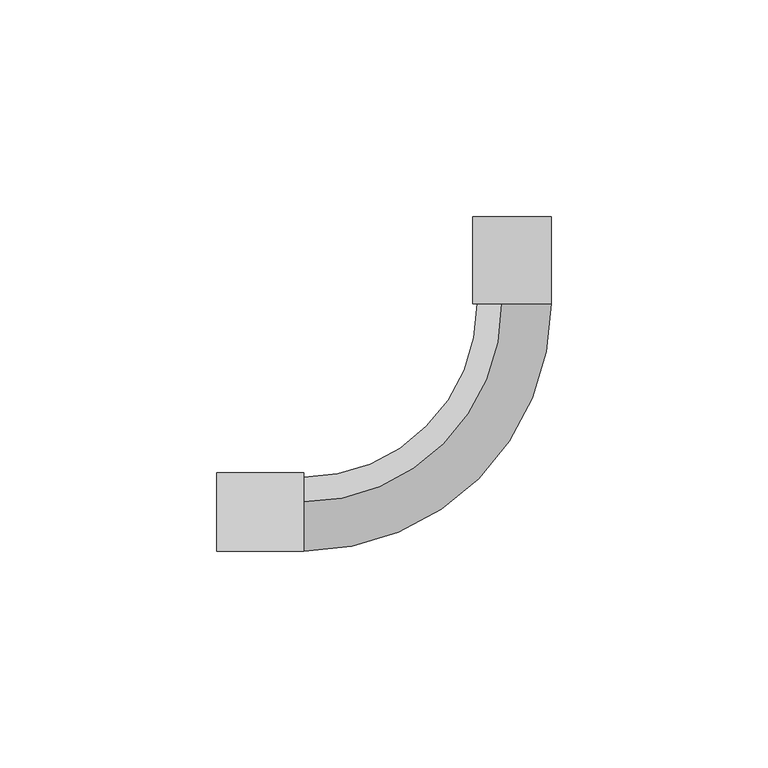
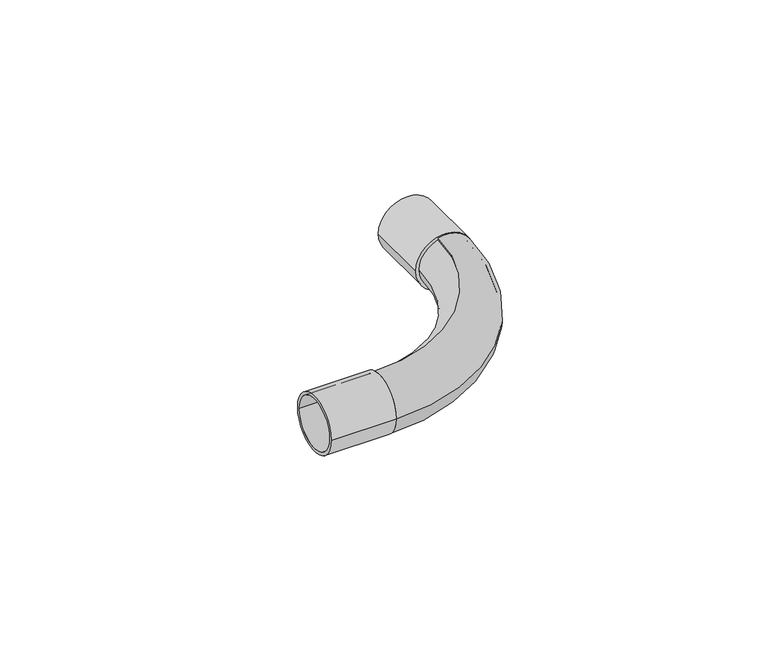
"""IFC4 building model written with IfcOpenShell, lengths in millimetres: pipe fitting geometry, ADSK_Пресс-фитинг ПЭ_Поворот с фиксатором : Поворот трубы."""

from ifc_helpers import new_model, si_unit, point, frame, origin, origin_2d, place, context, project, spatial, polyline, circle_curve, ellipse_curve, trimmed, segment, composite_curve, outline, extrude, source, transform, mapped, element, save
from ifc_brep_helpers import plane_surface, revolved_surface, advanced_brep


def pipe_fitting_ed936812(model_context):
    return source(origin(), model_context, "Body", "SolidModel", [
        extrude(outline(composite_curve([segment(trimmed(circle_curve(origin_2d(), 9.0), [point((9.0, 0.0))], [point((-9.0, 0.0))], False, "CARTESIAN"), True, "CONTINUOUS"), segment(trimmed(circle_curve(origin_2d(), 9.0), [point((-9.0, 0.0))], [point((9.0, 0.0))], False, "CARTESIAN"), True, "CONTINUOUS")], self_intersect=False), holes=[composite_curve([segment(trimmed(circle_curve(origin_2d(), 8.0), [point((8.0, 0.0))], [point((-8.0, 0.0))], True, "CARTESIAN"), True, "CONTINUOUS"), segment(trimmed(circle_curve(origin_2d(), 8.0), [point((-8.0, 0.0))], [point((8.0, 0.0))], True, "CARTESIAN"), True, "CONTINUOUS")], self_intersect=False)]), frame((-68.0, 0.0, 0.0), z_axis=(1.0, 0.0, 0.0), x_axis=(0.0, 1.0, 0.0)), (0.0, 0.0, 1.0), 20.0),
        extrude(outline(composite_curve([segment(trimmed(circle_curve(origin_2d(), 9.0), [point((0.0, 9.0))], [point((0.0, -9.0))], False, "CARTESIAN"), True, "CONTINUOUS"), segment(trimmed(circle_curve(origin_2d(), 9.0), [point((0.0, -9.0))], [point((0.0, 9.0))], False, "CARTESIAN"), True, "CONTINUOUS")], self_intersect=False), holes=[composite_curve([segment(trimmed(circle_curve(origin_2d(), 8.0), [point((0.0, 8.0))], [point((0.0, -8.0))], True, "CARTESIAN"), True, "CONTINUOUS"), segment(trimmed(circle_curve(origin_2d(), 8.0), [point((0.0, -8.0))], [point((0.0, 8.0))], True, "CARTESIAN"), True, "CONTINUOUS")], self_intersect=False)]), frame((0.0, 48.0, 0.0), z_axis=(0.0, 1.0, 0.0), x_axis=(0.0, 0.0, 1.0)), (0.0, 0.0, 1.0), 20.0),
        advanced_brep(
        [(-48.0, -8.0, 0.0), (-48.0, 2.0705524, -7.7274066), (-48.0, 2.3293714, -8.6933324), (-48.0, -9.0, 0.0), (-48.0, 2.3293714, 8.6933324), (-48.0, 2.0705524, 7.7274066), (8.0, 48.0, 0.0), (-2.0705524, 48.0, 7.7274066), (-2.3293714, 48.0, 8.6933324), (9.0, 48.0, 0.0), (-2.3293714, 48.0, -8.6933324), (-2.0705524, 48.0, -7.7274066)],
        [
            (0, 1, circle_curve(frame((-48.0, 0.0, 0.0), z_axis=(1.0, 0.0, 0.0), x_axis=(0.0, 1.0, 0.0)), 8.0)),
            (1, 2),
            (2, 3, circle_curve(frame((-48.0, 0.0, 0.0), z_axis=(-1.0, 0.0, 0.0), x_axis=(0.0, 1.0, 0.0)), 9.0)),
            (3, 4, circle_curve(frame((-48.0, 0.0, 0.0), z_axis=(-1.0, 0.0, 0.0), x_axis=(0.0, 1.0, 0.0)), 9.0)),
            (4, 5),
            (5, 0, circle_curve(frame((-48.0, 0.0, 0.0), z_axis=(1.0, 0.0, 0.0), x_axis=(0.0, 1.0, 0.0)), 8.0)),
            (6, 7, circle_curve(frame((0.0, 48.0, 0.0), z_axis=(0.0, -1.0, 0.0), x_axis=(-1.0, 0.0, 0.0)), 8.0)),
            (7, 8),
            (8, 9, circle_curve(frame((0.0, 48.0, 0.0), z_axis=(0.0, 1.0, 0.0), x_axis=(-1.0, 0.0, 0.0)), 9.0)),
            (9, 10, circle_curve(frame((0.0, 48.0, 0.0), z_axis=(0.0, 1.0, 0.0), x_axis=(-1.0, 0.0, 0.0)), 9.0)),
            (10, 11),
            (11, 6, circle_curve(frame((0.0, 48.0, 0.0), z_axis=(0.0, -1.0, 0.0), x_axis=(-1.0, 0.0, 0.0)), 8.0)),
            (0, 6, circle_curve(frame((-48.0, 48.0, 0.0), z_axis=(0.0, 0.0, 1.0), x_axis=(0.0, -1.0, 0.0)), 56.0)),
            (11, 1, circle_curve(frame((-48.0, 48.0, -7.7274066), z_axis=(0.0, 0.0, -1.0), x_axis=(0.0, -1.0, 0.0)), 45.9294476)),
            (5, 7, circle_curve(frame((-48.0, 48.0, 7.7274066), z_axis=(0.0, 0.0, 1.0), x_axis=(0.0, -1.0, 0.0)), 45.9294476)),
            (3, 9, circle_curve(frame((-48.0, 48.0, 0.0), z_axis=(0.0, 0.0, 1.0), x_axis=(0.0, -1.0, 0.0)), 57.0)),
            (8, 4, circle_curve(frame((-48.0, 48.0, 8.6933324), z_axis=(0.0, 0.0, -1.0), x_axis=(0.0, -1.0, 0.0)), 45.6706286)),
            (2, 10, circle_curve(frame((-48.0, 48.0, -8.6933324), z_axis=(0.0, 0.0, 1.0), x_axis=(0.0, -1.0, 0.0)), 45.6706286)),
        ],
        [
            plane_surface(frame((-48.0, 0.0, 0.0), z_axis=(-1.0, 0.0, 0.0), x_axis=(0.0, 0.0, 1.0))),
            plane_surface(frame((0.0, 48.0, 0.0), z_axis=(0.0, 1.0, 0.0), x_axis=(0.0, 0.0, 1.0))),
            revolved_surface(trimmed(ellipse_curve(frame((-48.0, 0.0, 0.0), z_axis=(1.0, 0.0, 0.0), x_axis=(0.0, 1.0, 0.0)), 8.0, 8.0), [point((-48.0, -8.0, 0.0))], [point((-48.0, 8.0, 0.0))], True, "CARTESIAN"), (-48.0, 48.0, 0.0), (0.0, 0.0, 1.0)),
            revolved_surface(trimmed(ellipse_curve(frame((-48.0, 0.0, 0.0), z_axis=(1.0, 0.0, 0.0), x_axis=(0.0, 1.0, 0.0)), 8.0, 8.0), [point((-48.0, 8.0, 0.0))], [point((-48.0, -8.0, 0.0))], True, "CARTESIAN"), (-48.0, 48.0, 0.0), (0.0, 0.0, 1.0)),
            revolved_surface(trimmed(ellipse_curve(frame((-48.0, 0.0, 0.0), z_axis=(-1.0, 0.0, 0.0), x_axis=(0.0, 1.0, 0.0)), 9.0, 9.0), [point((-48.0, -9.0, 0.0))], [point((-48.0, 9.0, 0.0))], True, "CARTESIAN"), (-48.0, 48.0, 0.0), (0.0, 0.0, 1.0)),
            revolved_surface(trimmed(ellipse_curve(frame((-48.0, 0.0, 0.0), z_axis=(-1.0, 0.0, 0.0), x_axis=(0.0, 1.0, 0.0)), 9.0, 9.0), [point((-48.0, 9.0, 0.0))], [point((-48.0, -9.0, 0.0))], True, "CARTESIAN"), (-48.0, 48.0, 0.0), (0.0, 0.0, 1.0)),
            revolved_surface(polyline([(-48.0, 0.0, 0.0), (-48.0, 2.3293714, -8.6933324)]), (-48.0, 48.0, 0.0), (0.0, 0.0, 1.0)),
            revolved_surface(polyline([(-48.0, 2.3293714, 8.6933324), (-48.0, 0.0, 0.0)]), (-48.0, 48.0, 0.0), (0.0, 0.0, 1.0)),
        ],
        [
            (0, [[1, 2, 3, 4, 5, 6]]),
            (1, [[7, 8, 9, 10, 11, 12]]),
            (2, [[13, -12, 14, -1]]),
            (3, [[-13, -6, 15, -7]]),
            (4, [[16, -9, 17, -4]]),
            (5, [[-16, -3, 18, -10]]),
            (6, [[-2, -14, -11, -18]]),
            (7, [[-5, -17, -8, -15]]),
        ],
    ),
        advanced_brep(
        [(-48.0, -8.0, 0.0), (-48.0, 8.0, 0.0), (8.0, 48.0, 0.0), (-8.0, 48.0, 0.0)],
        [
            (0, 1, circle_curve(frame((-48.0, 0.0, 0.0), z_axis=(-1.0, 0.0, 0.0), x_axis=(0.0, 1.0, 0.0)), 8.0)),
            (1, 0, circle_curve(frame((-48.0, 0.0, 0.0), z_axis=(-1.0, 0.0, 0.0), x_axis=(0.0, 1.0, 0.0)), 8.0)),
            (2, 3, circle_curve(frame((0.0, 48.0, 0.0), z_axis=(0.0, 1.0, 0.0), x_axis=(-1.0, 0.0, 0.0)), 8.0)),
            (3, 2, circle_curve(frame((0.0, 48.0, 0.0), z_axis=(0.0, 1.0, 0.0), x_axis=(-1.0, 0.0, 0.0)), 8.0)),
            (3, 1, circle_curve(frame((-48.0, 48.0, 0.0), z_axis=(0.0, 0.0, -1.0), x_axis=(0.0, -1.0, 0.0)), 40.0)),
            (0, 2, circle_curve(frame((-48.0, 48.0, 0.0), z_axis=(0.0, 0.0, 1.0), x_axis=(0.0, -1.0, 0.0)), 56.0)),
        ],
        [
            plane_surface(frame((-48.0, 0.0, 0.0), z_axis=(-1.0, 0.0, 0.0), x_axis=(0.0, 0.0, 1.0))),
            plane_surface(frame((0.0, 48.0, 0.0), z_axis=(0.0, 1.0, 0.0), x_axis=(0.0, 0.0, 1.0))),
            revolved_surface(trimmed(ellipse_curve(frame((-48.0, 0.0, 0.0), z_axis=(-1.0, 0.0, 0.0), x_axis=(0.0, 1.0, 0.0)), 8.0, 8.0), [point((-48.0, -8.0, 0.0))], [point((-48.0, 8.0, 0.0))], True, "CARTESIAN"), (-48.0, 48.0, 0.0), (0.0, 0.0, 1.0)),
            revolved_surface(trimmed(ellipse_curve(frame((-48.0, 0.0, 0.0), z_axis=(-1.0, 0.0, 0.0), x_axis=(0.0, 1.0, 0.0)), 8.0, 8.0), [point((-48.0, 8.0, 0.0))], [point((-48.0, -8.0, 0.0))], True, "CARTESIAN"), (-48.0, 48.0, 0.0), (0.0, 0.0, 1.0)),
        ],
        [
            (0, [[1, 2]]),
            (1, [[3, 4]]),
            (2, [[5, -1, 6, -4]]),
            (3, [[-6, -2, -5, -3]]),
        ],
    ),
    ])


if __name__ == "__main__":
    model = new_model("IFC4")
    model_context = context("Model", 3, world=origin())
    ifc_project = project(units=[si_unit("LENGTHUNIT", "METRE", prefix="MILLI")], contexts=[model_context])
    site = spatial("IfcSite", under=ifc_project)
    building = spatial("IfcBuilding", under=site)
    placement = place(None, origin())
    pipe_fitting_shape = pipe_fitting_ed936812(model_context)
    element("IfcPipeFitting", 1, ObjectType="ADSK_Пресс-фитинг ПЭ_Поворот с фиксатором : Поворот трубы", at=placement, inside=building, context=model_context, shape_type="MappedRepresentation", body=[
        mapped(pipe_fitting_shape, transform((0.0, 0.0, 0.0), x_axis=(1.0, 0.0, 0.0), y_axis=(0.0, 1.0, 0.0), z_axis=(0.0, 0.0, 1.0))),
    ])
    save(model, "model.ifc")
